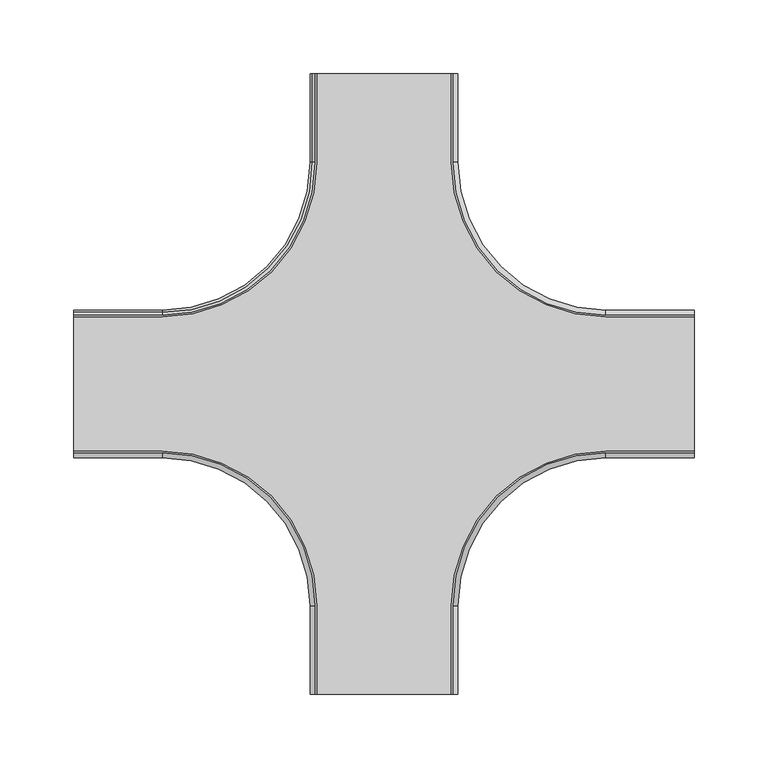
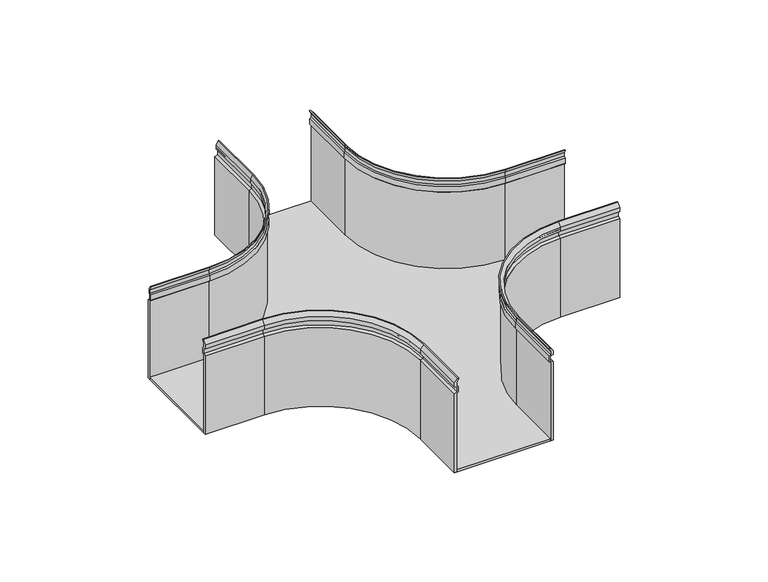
"""IFC4 building model written with IfcOpenShell, lengths in millimetres: cable carrier fitting geometry, CRERC_Horizontal Cross-over_Basortray : Basortray CRERC-GS."""

from ifc_helpers import new_model, si_unit, point, frame, frame_2d, origin, place, context, project, spatial, polyline, circle_curve, trimmed, segment, composite_curve, outline, extrude, source, transform, mapped, element, save
from ifc_brep_helpers import plane_surface, cylinder_surface, revolved_surface, advanced_brep


def cable_carrier_fitting_676bfd4c(model_context):
    return source(origin(), model_context, "Body", "SolidModel", [
        advanced_brep(
        [(-210.0, -47.46, 34.0054951), (-210.0, -47.46, -50.0), (-210.0, -50.0, -50.0), (-210.0, -50.0, 34.336866), (-210.0, -47.157385, 35.439481), (-210.0, -47.157385, 40.6905707), (-210.0, -50.0, 41.7931858), (-210.0, -50.0, 46.1360249), (-210.0, -46.4581988, 50.0), (-210.0, -45.5754965, 50.0), (-210.0, -47.46, 45.9586692), (-210.0, -47.46, 42.1245566), (-210.0, -46.157385, 41.0219416), (-210.0, -46.157385, 35.1081101), (-150.0, -46.157385, 35.1081101), (-150.0, -47.46, 34.0054951), (-150.0, -46.157385, 41.0219416), (-150.0, -47.46, 42.1245566), (-150.0, -47.46, 45.9586692), (-150.0, -45.5754965, 50.0), (-150.0, -46.4581988, 50.0), (-46.4581988, -150.0, 50.0), (-46.4581988, -210.0, 50.0), (-45.5754965, -210.0, 50.0), (-45.5754965, -150.0, 50.0), (-150.0, -50.0, 46.1360249), (-150.0, -50.0, 41.7931858), (-150.0, -47.157385, 40.6905707), (-150.0, -47.157385, 35.439481), (-150.0, -50.0, 34.336866), (-150.0, -50.0, -50.0), (-150.0, -47.46, -50.0), (-47.46, -150.0, -50.0), (-47.46, -210.0, -50.0), (-50.0, -210.0, -50.0), (-50.0, -150.0, -50.0), (-47.46, -150.0, 34.0054951), (-46.157385, -150.0, 35.1081101), (-46.157385, -150.0, 41.0219416), (-47.46, -150.0, 42.1245566), (-47.46, -150.0, 45.9586692), (-50.0, -150.0, 46.1360249), (-50.0, -150.0, 41.7931858), (-47.157385, -150.0, 40.6905707), (-47.157385, -150.0, 35.439481), (-50.0, -150.0, 34.336866), (-47.46, -210.0, 34.0054951), (-46.157385, -210.0, 35.1081101), (-46.157385, -210.0, 41.0219416), (-47.46, -210.0, 42.1245566), (-47.46, -210.0, 45.9586692), (-50.0, -210.0, 46.1360249), (-50.0, -210.0, 41.7931858), (-47.157385, -210.0, 40.6905707), (-47.157385, -210.0, 35.439481), (-50.0, -210.0, 34.336866)],
        [
            (0, 1),
            (1, 2),
            (2, 3),
            (3, 4),
            (4, 5),
            (5, 6),
            (6, 7),
            (7, 8),
            (8, 9),
            (9, 10),
            (10, 11),
            (11, 12),
            (12, 13),
            (13, 0),
            (13, 14),
            (14, 15),
            (15, 0),
            (12, 16),
            (16, 14),
            (11, 17),
            (17, 16),
            (10, 18),
            (18, 17),
            (9, 19),
            (19, 18),
            (8, 20),
            (20, 21, circle_curve(frame((-150.0, -150.0, 50.0), z_axis=(0.0, 0.0, -1.0), x_axis=(0.0, 1.0, 0.0)), 103.5418012)),
            (21, 22),
            (22, 23),
            (23, 24),
            (24, 19, circle_curve(frame((-150.0, -150.0, 50.0), z_axis=(0.0, 0.0, 1.0), x_axis=(0.0, 1.0, 0.0)), 104.4245035)),
            (7, 25),
            (25, 20),
            (6, 26),
            (26, 25),
            (5, 27),
            (27, 26),
            (4, 28),
            (28, 27),
            (3, 29),
            (29, 28),
            (2, 30),
            (30, 29),
            (1, 31),
            (31, 32, circle_curve(frame((-150.0, -150.0, -50.0), z_axis=(0.0, 0.0, -1.0), x_axis=(0.0, 1.0, 0.0)), 102.54)),
            (32, 33),
            (33, 34),
            (34, 35),
            (35, 30, circle_curve(frame((-150.0, -150.0, -50.0), z_axis=(0.0, 0.0, 1.0), x_axis=(0.0, 1.0, 0.0)), 100.0)),
            (15, 31),
            (36, 15, circle_curve(frame((-150.0, -150.0, 34.0054951), z_axis=(0.0, 0.0, 1.0), x_axis=(0.0, 1.0, 0.0)), 102.54)),
            (14, 37, circle_curve(frame((-150.0, -150.0, 35.1081101), z_axis=(0.0, 0.0, -1.0), x_axis=(0.0, 1.0, 0.0)), 103.842615)),
            (37, 36),
            (16, 38, circle_curve(frame((-150.0, -150.0, 41.0219416), z_axis=(0.0, 0.0, -1.0), x_axis=(0.0, 1.0, 0.0)), 103.842615)),
            (38, 37),
            (17, 39, circle_curve(frame((-150.0, -150.0, 42.1245566), z_axis=(0.0, 0.0, -1.0), x_axis=(0.0, 1.0, 0.0)), 102.54)),
            (39, 38),
            (18, 40, circle_curve(frame((-150.0, -150.0, 45.9586692), z_axis=(0.0, 0.0, -1.0), x_axis=(0.0, 1.0, 0.0)), 102.54)),
            (40, 39),
            (24, 40),
            (25, 41, circle_curve(frame((-150.0, -150.0, 46.1360249), z_axis=(0.0, 0.0, -1.0), x_axis=(0.0, 1.0, 0.0)), 100.0)),
            (41, 21),
            (26, 42, circle_curve(frame((-150.0, -150.0, 41.7931858), z_axis=(0.0, 0.0, -1.0), x_axis=(0.0, 1.0, 0.0)), 100.0)),
            (42, 41),
            (27, 43, circle_curve(frame((-150.0, -150.0, 40.6905707), z_axis=(0.0, 0.0, -1.0), x_axis=(0.0, 1.0, 0.0)), 102.842615)),
            (43, 42),
            (28, 44, circle_curve(frame((-150.0, -150.0, 35.439481), z_axis=(0.0, 0.0, -1.0), x_axis=(0.0, 1.0, 0.0)), 102.842615)),
            (44, 43),
            (29, 45, circle_curve(frame((-150.0, -150.0, 34.336866), z_axis=(0.0, 0.0, -1.0), x_axis=(0.0, 1.0, 0.0)), 100.0)),
            (45, 44),
            (35, 45),
            (36, 32),
            (46, 47),
            (47, 48),
            (48, 49),
            (49, 50),
            (50, 23),
            (22, 51),
            (51, 52),
            (52, 53),
            (53, 54),
            (54, 55),
            (55, 34),
            (33, 46),
            (37, 47),
            (46, 36),
            (38, 48),
            (39, 49),
            (40, 50),
            (41, 51),
            (42, 52),
            (43, 53),
            (44, 54),
            (45, 55),
        ],
        [
            plane_surface(frame((-210.0, -47.46, 0.0), z_axis=(-1.0, 0.0, 0.0), x_axis=(0.0, 0.0, 1.0))),
            plane_surface(frame((-210.0, -46.157385, 35.1081101), z_axis=(0.0, 0.6460796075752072, -0.7632700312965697), x_axis=(1.0, 0.0, 0.0))),
            plane_surface(frame((-210.0, -46.157385, 41.0219416), z_axis=(0.0, 1.0, 0.0), x_axis=(1.0, 0.0, 0.0))),
            plane_surface(frame((-210.0, -47.46, 42.1245566), z_axis=(0.0, 0.6460796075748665, 0.7632700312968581), x_axis=(1.0, 0.0, 0.0))),
            plane_surface(frame((-210.0, -47.46, 45.9586692), z_axis=(0.0, 1.0, 0.0), x_axis=(1.0, 0.0, 0.0))),
            plane_surface(frame((-210.0, -45.5754965, 50.0), z_axis=(0.0, 0.9063077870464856, -0.4226182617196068), x_axis=(1.0, 0.0, 0.0))),
            plane_surface(frame((-210.0, -46.4581988, 50.0), z_axis=(0.0, 0.0, 1.0), x_axis=(1.0, 0.0, 0.0))),
            plane_surface(frame((-210.0, -50.0, 46.1360249), z_axis=(0.0, -0.7371708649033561, 0.6757063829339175), x_axis=(1.0, 0.0, 0.0))),
            plane_surface(frame((-210.0, -50.0, 41.7931858), z_axis=(0.0, -1.0, 0.0), x_axis=(1.0, 0.0, 0.0))),
            plane_surface(frame((-210.0, -47.157385, 40.6905707), z_axis=(0.0, -0.3616352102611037, -0.9323196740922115), x_axis=(1.0, 0.0, 0.0))),
            plane_surface(frame((-210.0, -47.157385, 35.439481), z_axis=(0.0, -1.0, 0.0), x_axis=(1.0, 0.0, 0.0))),
            plane_surface(frame((-210.0, -50.0, 34.336866), z_axis=(0.0, -0.36163521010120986, 0.9323196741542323), x_axis=(1.0, 0.0, 0.0))),
            plane_surface(frame((-210.0, -50.0, -50.0), z_axis=(0.0, -1.0, 0.0), x_axis=(1.0, 0.0, 0.0))),
            plane_surface(frame((-210.0, -47.46, -50.0), z_axis=(0.0, 0.0, -1.0), x_axis=(1.0, 0.0, 0.0))),
            plane_surface(frame((-210.0, -47.46, 34.0054951), z_axis=(0.0, 1.0, 0.0), x_axis=(1.0, 0.0, 0.0))),
            revolved_surface(polyline([(-150.0, -46.157385, 35.1081101), (-150.0, -47.46, 34.0054951)]), (-150.0, -150.0, 0.0), (0.0, 0.0, -1.0)),
            cylinder_surface(frame((-150.0, -150.0, 0.0), z_axis=(0.0, 0.0, -1.0), x_axis=(0.0, 1.0, 0.0)), 103.842615),
            revolved_surface(polyline([(-150.0, -47.46, 42.1245566), (-150.0, -46.157385, 41.0219416)]), (-150.0, -150.0, 0.0), (0.0, 0.0, -1.0)),
            cylinder_surface(frame((-150.0, -150.0, 0.0), z_axis=(0.0, 0.0, -1.0), x_axis=(0.0, 1.0, 0.0)), 102.54),
            revolved_surface(polyline([(-150.0, -45.5754965, 50.0), (-150.0, -47.46, 45.9586692)]), (-150.0, -150.0, 0.0), (0.0, 0.0, -1.0)),
            revolved_surface(polyline([(-150.0, -50.0, 46.1360249), (-150.0, -46.4581988, 50.0)]), (-150.0, -150.0, 0.0), (0.0, 0.0, -1.0)),
            revolved_surface(polyline([(-150.0, -50.0, 41.7931858), (-150.0, -50.0, 46.1360249)]), (-150.0, -150.0, 0.0), (0.0, 0.0, -1.0)),
            revolved_surface(polyline([(-150.0, -47.157385, 40.6905707), (-150.0, -50.0, 41.7931858)]), (-150.0, -150.0, 0.0), (0.0, 0.0, -1.0)),
            revolved_surface(polyline([(-150.0, -47.157385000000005, 35.439481), (-150.0, -47.157385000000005, 40.6905707)]), (-150.0, -150.0, 0.0), (0.0, 0.0, -1.0)),
            revolved_surface(polyline([(-150.0, -50.0, 34.336866), (-150.0, -47.157385, 35.439481)]), (-150.0, -150.0, 0.0), (0.0, 0.0, -1.0)),
            revolved_surface(polyline([(-150.0, -50.0, -50.0), (-150.0, -50.0, 34.336866)]), (-150.0, -150.0, 0.0), (0.0, 0.0, -1.0)),
            plane_surface(frame((-47.46, -210.0, 0.0), z_axis=(0.0, -1.0, 0.0), x_axis=(0.0, 0.0, 1.0))),
            plane_surface(frame((-46.157385, -150.0, 35.1081101), z_axis=(0.6460796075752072, 0.0, -0.7632700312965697), x_axis=(0.0, -1.0, 0.0))),
            plane_surface(frame((-46.157385, -150.0, 41.0219416), z_axis=(1.0, 0.0, 0.0), x_axis=(0.0, -1.0, 0.0))),
            plane_surface(frame((-47.46, -150.0, 42.1245566), z_axis=(0.6460796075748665, 0.0, 0.7632700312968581), x_axis=(0.0, -1.0, 0.0))),
            plane_surface(frame((-47.46, -150.0, 45.9586692), z_axis=(1.0, 0.0, 0.0), x_axis=(0.0, -1.0, 0.0))),
            plane_surface(frame((-45.5754965, -150.0, 50.0), z_axis=(0.9063077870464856, 0.0, -0.4226182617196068), x_axis=(0.0, -1.0, 0.0))),
            plane_surface(frame((-50.0, -150.0, 46.1360249), z_axis=(-0.7371708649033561, 0.0, 0.6757063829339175), x_axis=(0.0, -1.0, 0.0))),
            plane_surface(frame((-50.0, -150.0, 41.7931858), z_axis=(-1.0, 0.0, 0.0), x_axis=(0.0, -1.0, 0.0))),
            plane_surface(frame((-47.157385, -150.0, 40.6905707), z_axis=(-0.3616352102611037, 0.0, -0.9323196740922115), x_axis=(0.0, -1.0, 0.0))),
            plane_surface(frame((-47.157385, -150.0, 35.439481), z_axis=(-1.0, 0.0, 0.0), x_axis=(0.0, -1.0, 0.0))),
            plane_surface(frame((-50.0, -150.0, 34.336866), z_axis=(-0.36163521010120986, 0.0, 0.9323196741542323), x_axis=(0.0, -1.0, 0.0))),
            plane_surface(frame((-50.0, -150.0, -50.0), z_axis=(-1.0, 0.0, 0.0), x_axis=(0.0, -1.0, 0.0))),
            plane_surface(frame((-47.46, -150.0, 34.0054951), z_axis=(1.0, 0.0, 0.0), x_axis=(0.0, -1.0, 0.0))),
        ],
        [
            (0, [[1, 2, 3, 4, 5, 6, 7, 8, 9, 10, 11, 12, 13, 14]]),
            (1, [[-14, 15, 16, 17]]),
            (2, [[-13, 18, 19, -15]]),
            (3, [[-12, 20, 21, -18]]),
            (4, [[-11, 22, 23, -20]]),
            (5, [[-10, 24, 25, -22]]),
            (6, [[-9, 26, 27, 28, 29, 30, 31, -24]]),
            (7, [[-8, 32, 33, -26]]),
            (8, [[-7, 34, 35, -32]]),
            (9, [[-6, 36, 37, -34]]),
            (10, [[-5, 38, 39, -36]]),
            (11, [[-4, 40, 41, -38]]),
            (12, [[-3, 42, 43, -40]]),
            (13, [[-2, 44, 45, 46, 47, 48, 49, -42]]),
            (14, [[-1, -17, 50, -44]]),
            (15, [[51, -16, 52, 53]]),
            (16, [[-52, -19, 54, 55]]),
            (17, [[-54, -21, 56, 57]]),
            (18, [[-56, -23, 58, 59]]),
            (19, [[-58, -25, -31, 60]]),
            (20, [[-27, -33, 61, 62]]),
            (21, [[-61, -35, 63, 64]]),
            (22, [[-63, -37, 65, 66]]),
            (23, [[-65, -39, 67, 68]]),
            (24, [[-67, -41, 69, 70]]),
            (25, [[-69, -43, -49, 71]]),
            (18, [[-45, -50, -51, 72]]),
            (26, [[73, 74, 75, 76, 77, -29, 78, 79, 80, 81, 82, 83, -47, 84]]),
            (27, [[-53, 85, -73, 86]]),
            (28, [[-55, 87, -74, -85]]),
            (29, [[-57, 88, -75, -87]]),
            (30, [[-59, 89, -76, -88]]),
            (31, [[-60, -30, -77, -89]]),
            (32, [[-62, 90, -78, -28]]),
            (33, [[-64, 91, -79, -90]]),
            (34, [[-66, 92, -80, -91]]),
            (35, [[-68, 93, -81, -92]]),
            (36, [[-70, 94, -82, -93]]),
            (37, [[-71, -48, -83, -94]]),
            (38, [[-72, -86, -84, -46]]),
        ],
    ),
        advanced_brep(
        [(210.0, -47.46, 34.0054951), (210.0, -46.157385, 35.1081101), (210.0, -46.157385, 41.0219416), (210.0, -47.46, 42.1245566), (210.0, -47.46, 45.9586692), (210.0, -45.5754965, 50.0), (210.0, -46.4581988, 50.0), (210.0, -50.0, 46.1360249), (210.0, -50.0, 41.7931858), (210.0, -47.157385, 40.6905707), (210.0, -47.157385, 35.439481), (210.0, -50.0, 34.336866), (210.0, -50.0, -50.0), (210.0, -47.46, -50.0), (150.0, -47.46, 34.0054951), (150.0, -46.157385, 35.1081101), (150.0, -46.157385, 41.0219416), (150.0, -47.46, 42.1245566), (150.0, -47.46, 45.9586692), (150.0, -45.5754965, 50.0), (45.5754965, -150.0, 50.0), (45.5754965, -210.0, 50.0), (46.4581988, -210.0, 50.0), (46.4581988, -150.0, 50.0), (150.0, -46.4581988, 50.0), (150.0, -50.0, 46.1360249), (150.0, -50.0, 41.7931858), (150.0, -47.157385, 40.6905707), (150.0, -47.157385, 35.439481), (150.0, -50.0, 34.336866), (150.0, -50.0, -50.0), (50.0, -150.0, -50.0), (50.0, -210.0, -50.0), (47.46, -210.0, -50.0), (47.46, -150.0, -50.0), (150.0, -47.46, -50.0), (46.157385, -150.0, 35.1081101), (47.46, -150.0, 34.0054951), (46.157385, -150.0, 41.0219416), (47.46, -150.0, 42.1245566), (47.46, -150.0, 45.9586692), (50.0, -150.0, 46.1360249), (50.0, -150.0, 41.7931858), (47.157385, -150.0, 40.6905707), (47.157385, -150.0, 35.439481), (50.0, -150.0, 34.336866), (47.46, -210.0, 34.0054951), (50.0, -210.0, 34.336866), (47.157385, -210.0, 35.439481), (47.157385, -210.0, 40.6905707), (50.0, -210.0, 41.7931858), (50.0, -210.0, 46.1360249), (47.46, -210.0, 45.9586692), (47.46, -210.0, 42.1245566), (46.157385, -210.0, 41.0219416), (46.157385, -210.0, 35.1081101)],
        [
            (0, 1),
            (1, 2),
            (2, 3),
            (3, 4),
            (4, 5),
            (5, 6),
            (6, 7),
            (7, 8),
            (8, 9),
            (9, 10),
            (10, 11),
            (11, 12),
            (12, 13),
            (13, 0),
            (0, 14),
            (14, 15),
            (15, 1),
            (15, 16),
            (16, 2),
            (16, 17),
            (17, 3),
            (17, 18),
            (18, 4),
            (18, 19),
            (19, 5),
            (19, 20, circle_curve(frame((150.0, -150.0, 50.0), z_axis=(0.0, 0.0, 1.0), x_axis=(0.0, 1.0, 0.0)), 104.4245035)),
            (20, 21),
            (21, 22),
            (22, 23),
            (23, 24, circle_curve(frame((150.0, -150.0, 50.0), z_axis=(0.0, 0.0, -1.0), x_axis=(0.0, 1.0, 0.0)), 103.5418012)),
            (24, 6),
            (24, 25),
            (25, 7),
            (25, 26),
            (26, 8),
            (26, 27),
            (27, 9),
            (27, 28),
            (28, 10),
            (28, 29),
            (29, 11),
            (29, 30),
            (30, 12),
            (30, 31, circle_curve(frame((150.0, -150.0, -50.0), z_axis=(0.0, 0.0, 1.0), x_axis=(0.0, 1.0, 0.0)), 100.0)),
            (31, 32),
            (32, 33),
            (33, 34),
            (34, 35, circle_curve(frame((150.0, -150.0, -50.0), z_axis=(0.0, 0.0, -1.0), x_axis=(0.0, 1.0, 0.0)), 102.54)),
            (35, 13),
            (35, 14),
            (36, 15, circle_curve(frame((150.0, -150.0, 35.1081101), z_axis=(0.0, 0.0, -1.0), x_axis=(0.0, 1.0, 0.0)), 103.842615)),
            (14, 37, circle_curve(frame((150.0, -150.0, 34.0054951), z_axis=(0.0, 0.0, 1.0), x_axis=(0.0, 1.0, 0.0)), 102.54)),
            (37, 36),
            (38, 16, circle_curve(frame((150.0, -150.0, 41.0219416), z_axis=(0.0, 0.0, -1.0), x_axis=(0.0, 1.0, 0.0)), 103.842615)),
            (36, 38),
            (39, 17, circle_curve(frame((150.0, -150.0, 42.1245566), z_axis=(0.0, 0.0, -1.0), x_axis=(0.0, 1.0, 0.0)), 102.54)),
            (38, 39),
            (40, 18, circle_curve(frame((150.0, -150.0, 45.9586692), z_axis=(0.0, 0.0, -1.0), x_axis=(0.0, 1.0, 0.0)), 102.54)),
            (39, 40),
            (40, 20),
            (41, 25, circle_curve(frame((150.0, -150.0, 46.1360249), z_axis=(0.0, 0.0, -1.0), x_axis=(0.0, 1.0, 0.0)), 100.0)),
            (23, 41),
            (42, 26, circle_curve(frame((150.0, -150.0, 41.7931858), z_axis=(0.0, 0.0, -1.0), x_axis=(0.0, 1.0, 0.0)), 100.0)),
            (41, 42),
            (43, 27, circle_curve(frame((150.0, -150.0, 40.6905707), z_axis=(0.0, 0.0, -1.0), x_axis=(0.0, 1.0, 0.0)), 102.842615)),
            (42, 43),
            (44, 28, circle_curve(frame((150.0, -150.0, 35.439481), z_axis=(0.0, 0.0, -1.0), x_axis=(0.0, 1.0, 0.0)), 102.842615)),
            (43, 44),
            (45, 29, circle_curve(frame((150.0, -150.0, 34.336866), z_axis=(0.0, 0.0, -1.0), x_axis=(0.0, 1.0, 0.0)), 100.0)),
            (44, 45),
            (45, 31),
            (34, 37),
            (46, 33),
            (32, 47),
            (47, 48),
            (48, 49),
            (49, 50),
            (50, 51),
            (51, 22),
            (21, 52),
            (52, 53),
            (53, 54),
            (54, 55),
            (55, 46),
            (37, 46),
            (55, 36),
            (54, 38),
            (53, 39),
            (52, 40),
            (51, 41),
            (50, 42),
            (49, 43),
            (48, 44),
            (47, 45),
        ],
        [
            plane_surface(frame((210.0, -47.46, 0.0), z_axis=(1.0, 0.0, 0.0), x_axis=(0.0, 0.0, 1.0))),
            plane_surface(frame((210.0, -47.46, 34.0054951), z_axis=(0.0, 0.6460796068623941, -0.7632700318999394), x_axis=(-1.0, 0.0, 0.0))),
            plane_surface(frame((210.0, -46.157385, 35.1081101), z_axis=(0.0, 1.0, 0.0), x_axis=(-1.0, 0.0, 0.0))),
            plane_surface(frame((210.0, -46.157385, 41.0219416), z_axis=(0.0, 0.6460796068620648, 0.763270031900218), x_axis=(-1.0, 0.0, 0.0))),
            plane_surface(frame((210.0, -47.46, 42.1245566), z_axis=(0.0, 1.0, 0.0), x_axis=(-1.0, 0.0, 0.0))),
            plane_surface(frame((210.0, -47.46, 45.9586692), z_axis=(0.0, 0.9063077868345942, -0.4226182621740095), x_axis=(-1.0, 0.0, 0.0))),
            plane_surface(frame((210.0, -45.5754965, 50.0), z_axis=(0.0, 0.0, 1.0), x_axis=(-1.0, 0.0, 0.0))),
            plane_surface(frame((210.0, -46.4581988, 50.0), z_axis=(0.0, -0.737170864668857, 0.6757063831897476), x_axis=(-1.0, 0.0, 0.0))),
            plane_surface(frame((210.0, -50.0, 46.1360249), z_axis=(0.0, -1.0, 0.0), x_axis=(-1.0, 0.0, 0.0))),
            plane_surface(frame((210.0, -50.0, 41.7931858), z_axis=(0.0, -0.3616352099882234, -0.9323196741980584), x_axis=(-1.0, 0.0, 0.0))),
            plane_surface(frame((210.0, -47.157385, 40.6905707), z_axis=(0.0, -1.0, 0.0), x_axis=(-1.0, 0.0, 0.0))),
            plane_surface(frame((210.0, -47.157385, 35.439481), z_axis=(0.0, -0.3616352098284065, 0.9323196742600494), x_axis=(-1.0, 0.0, 0.0))),
            plane_surface(frame((210.0, -50.0, 34.336866), z_axis=(0.0, -1.0, 0.0), x_axis=(-1.0, 0.0, 0.0))),
            plane_surface(frame((210.0, -50.0, -50.0), z_axis=(0.0, 0.0, -1.0), x_axis=(-1.0, 0.0, 0.0))),
            plane_surface(frame((210.0, -47.46, -50.0), z_axis=(0.0, 1.0, 0.0), x_axis=(-1.0, 0.0, 0.0))),
            revolved_surface(polyline([(150.0, -47.46, 34.0054951), (150.0, -46.157385, 35.1081101)]), (150.0, -150.0, 0.0), (0.0, 0.0, 1.0)),
            cylinder_surface(frame((150.0, -150.0, 0.0), z_axis=(0.0, 0.0, 1.0), x_axis=(0.0, 1.0, 0.0)), 103.842615),
            revolved_surface(polyline([(150.0, -46.157385, 41.0219416), (150.0, -47.46, 42.1245566)]), (150.0, -150.0, 0.0), (0.0, 0.0, 1.0)),
            cylinder_surface(frame((150.0, -150.0, 0.0), z_axis=(0.0, 0.0, 1.0), x_axis=(0.0, 1.0, 0.0)), 102.54),
            revolved_surface(polyline([(150.0, -47.46, 45.9586692), (150.0, -45.5754965, 50.0)]), (150.0, -150.0, 0.0), (0.0, 0.0, 1.0)),
            revolved_surface(polyline([(150.0, -46.4581988, 50.0), (150.0, -50.0, 46.1360249)]), (150.0, -150.0, 0.0), (0.0, 0.0, 1.0)),
            revolved_surface(polyline([(150.0, -50.0, 46.1360249), (150.0, -50.0, 41.7931858)]), (150.0, -150.0, 0.0), (0.0, 0.0, 1.0)),
            revolved_surface(polyline([(150.0, -50.0, 41.7931858), (150.0, -47.157385, 40.6905707)]), (150.0, -150.0, 0.0), (0.0, 0.0, 1.0)),
            revolved_surface(polyline([(150.0, -47.157385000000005, 40.6905707), (150.0, -47.157385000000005, 35.439481)]), (150.0, -150.0, 0.0), (0.0, 0.0, 1.0)),
            revolved_surface(polyline([(150.0, -47.157385, 35.439481), (150.0, -50.0, 34.336866)]), (150.0, -150.0, 0.0), (0.0, 0.0, 1.0)),
            revolved_surface(polyline([(150.0, -50.0, 34.336866), (150.0, -50.0, -50.0)]), (150.0, -150.0, 0.0), (0.0, 0.0, 1.0)),
            plane_surface(frame((47.46, -210.0, 0.0), z_axis=(0.0, -1.0, 0.0), x_axis=(0.0, 0.0, 1.0))),
            plane_surface(frame((47.46, -150.0, 34.0054951), z_axis=(-0.6460796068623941, 0.0, -0.7632700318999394), x_axis=(0.0, -1.0, 0.0))),
            plane_surface(frame((46.157385, -150.0, 35.1081101), z_axis=(-1.0, 0.0, 0.0), x_axis=(0.0, -1.0, 0.0))),
            plane_surface(frame((46.157385, -150.0, 41.0219416), z_axis=(-0.6460796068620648, 0.0, 0.763270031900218), x_axis=(0.0, -1.0, 0.0))),
            plane_surface(frame((47.46, -150.0, 42.1245566), z_axis=(-1.0, 0.0, 0.0), x_axis=(0.0, -1.0, 0.0))),
            plane_surface(frame((47.46, -150.0, 45.9586692), z_axis=(-0.9063077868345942, 0.0, -0.4226182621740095), x_axis=(0.0, -1.0, 0.0))),
            plane_surface(frame((46.4581988, -150.0, 50.0), z_axis=(0.737170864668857, 0.0, 0.6757063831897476), x_axis=(0.0, -1.0, 0.0))),
            plane_surface(frame((50.0, -150.0, 46.1360249), z_axis=(1.0, 0.0, 0.0), x_axis=(0.0, -1.0, 0.0))),
            plane_surface(frame((50.0, -150.0, 41.7931858), z_axis=(0.3616352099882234, 0.0, -0.9323196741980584), x_axis=(0.0, -1.0, 0.0))),
            plane_surface(frame((47.157385, -150.0, 40.6905707), z_axis=(1.0, 0.0, 0.0), x_axis=(0.0, -1.0, 0.0))),
            plane_surface(frame((47.157385, -150.0, 35.439481), z_axis=(0.3616352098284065, 0.0, 0.9323196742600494), x_axis=(0.0, -1.0, 0.0))),
            plane_surface(frame((50.0, -150.0, 34.336866), z_axis=(1.0, 0.0, 0.0), x_axis=(0.0, -1.0, 0.0))),
            plane_surface(frame((47.46, -150.0, -50.0), z_axis=(-1.0, 0.0, 0.0), x_axis=(0.0, -1.0, 0.0))),
        ],
        [
            (0, [[1, 2, 3, 4, 5, 6, 7, 8, 9, 10, 11, 12, 13, 14]]),
            (1, [[-1, 15, 16, 17]]),
            (2, [[-2, -17, 18, 19]]),
            (3, [[-3, -19, 20, 21]]),
            (4, [[-4, -21, 22, 23]]),
            (5, [[-5, -23, 24, 25]]),
            (6, [[-6, -25, 26, 27, 28, 29, 30, 31]]),
            (7, [[-7, -31, 32, 33]]),
            (8, [[-8, -33, 34, 35]]),
            (9, [[-9, -35, 36, 37]]),
            (10, [[-10, -37, 38, 39]]),
            (11, [[-11, -39, 40, 41]]),
            (12, [[-12, -41, 42, 43]]),
            (13, [[-13, -43, 44, 45, 46, 47, 48, 49]]),
            (14, [[-14, -49, 50, -15]]),
            (15, [[51, -16, 52, 53]]),
            (16, [[54, -18, -51, 55]]),
            (17, [[56, -20, -54, 57]]),
            (18, [[58, -22, -56, 59]]),
            (19, [[-26, -24, -58, 60]]),
            (20, [[61, -32, -30, 62]]),
            (21, [[63, -34, -61, 64]]),
            (22, [[65, -36, -63, 66]]),
            (23, [[67, -38, -65, 68]]),
            (24, [[69, -40, -67, 70]]),
            (25, [[-44, -42, -69, 71]]),
            (18, [[-52, -50, -48, 72]]),
            (26, [[73, -46, 74, 75, 76, 77, 78, 79, -28, 80, 81, 82, 83, 84]]),
            (27, [[-53, 85, -84, 86]]),
            (28, [[-55, -86, -83, 87]]),
            (29, [[-57, -87, -82, 88]]),
            (30, [[-59, -88, -81, 89]]),
            (31, [[-60, -89, -80, -27]]),
            (32, [[-62, -29, -79, 90]]),
            (33, [[-64, -90, -78, 91]]),
            (34, [[-66, -91, -77, 92]]),
            (35, [[-68, -92, -76, 93]]),
            (36, [[-70, -93, -75, 94]]),
            (37, [[-71, -94, -74, -45]]),
            (38, [[-72, -47, -73, -85]]),
        ],
    ),
        advanced_brep(
        [(210.0, 47.46, 34.0054951), (210.0, 47.46, -50.0), (210.0, 50.0, -50.0), (210.0, 50.0, 34.336866), (210.0, 47.157385, 35.439481), (210.0, 47.157385, 40.6905707), (210.0, 50.0, 41.7931858), (210.0, 50.0, 46.1360249), (210.0, 46.4581988, 50.0), (210.0, 45.5754965, 50.0), (210.0, 47.46, 45.9586692), (210.0, 47.46, 42.1245566), (210.0, 46.157385, 41.0219416), (210.0, 46.157385, 35.1081101), (150.0, 46.157385, 35.1081101), (150.0, 47.46, 34.0054951), (150.0, 46.157385, 41.0219416), (150.0, 47.46, 42.1245566), (150.0, 47.46, 45.9586692), (150.0, 45.5754965, 50.0), (150.0, 46.4581988, 50.0), (46.4581988, 150.0, 50.0), (46.4581988, 210.0, 50.0), (45.5754965, 210.0, 50.0), (45.5754965, 150.0, 50.0), (150.0, 50.0, 46.1360249), (150.0, 50.0, 41.7931858), (150.0, 47.157385, 40.6905707), (150.0, 47.157385, 35.439481), (150.0, 50.0, 34.336866), (150.0, 50.0, -50.0), (150.0, 47.46, -50.0), (47.46, 150.0, -50.0), (47.46, 210.0, -50.0), (50.0, 210.0, -50.0), (50.0, 150.0, -50.0), (47.46, 150.0, 34.0054951), (46.157385, 150.0, 35.1081101), (46.157385, 150.0, 41.0219416), (47.46, 150.0, 42.1245566), (47.46, 150.0, 45.9586692), (50.0, 150.0, 46.1360249), (50.0, 150.0, 41.7931858), (47.157385, 150.0, 40.6905707), (47.157385, 150.0, 35.439481), (50.0, 150.0, 34.336866), (47.46, 210.0, 34.0054951), (46.157385, 210.0, 35.1081101), (46.157385, 210.0, 41.0219416), (47.46, 210.0, 42.1245566), (47.46, 210.0, 45.9586692), (50.0, 210.0, 46.1360249), (50.0, 210.0, 41.7931858), (47.157385, 210.0, 40.6905707), (47.157385, 210.0, 35.439481), (50.0, 210.0, 34.336866)],
        [
            (0, 1),
            (1, 2),
            (2, 3),
            (3, 4),
            (4, 5),
            (5, 6),
            (6, 7),
            (7, 8),
            (8, 9),
            (9, 10),
            (10, 11),
            (11, 12),
            (12, 13),
            (13, 0),
            (13, 14),
            (14, 15),
            (15, 0),
            (12, 16),
            (16, 14),
            (11, 17),
            (17, 16),
            (10, 18),
            (18, 17),
            (9, 19),
            (19, 18),
            (8, 20),
            (20, 21, circle_curve(frame((150.0, 150.0, 50.0), z_axis=(0.0, 0.0, -1.0), x_axis=(0.0, -1.0, 0.0)), 103.5418012)),
            (21, 22),
            (22, 23),
            (23, 24),
            (24, 19, circle_curve(frame((150.0, 150.0, 50.0), z_axis=(0.0, 0.0, 1.0), x_axis=(0.0, -1.0, 0.0)), 104.4245035)),
            (7, 25),
            (25, 20),
            (6, 26),
            (26, 25),
            (5, 27),
            (27, 26),
            (4, 28),
            (28, 27),
            (3, 29),
            (29, 28),
            (2, 30),
            (30, 29),
            (1, 31),
            (31, 32, circle_curve(frame((150.0, 150.0, -50.0), z_axis=(0.0, 0.0, -1.0), x_axis=(0.0, -1.0, 0.0)), 102.54)),
            (32, 33),
            (33, 34),
            (34, 35),
            (35, 30, circle_curve(frame((150.0, 150.0, -50.0), z_axis=(0.0, 0.0, 1.0), x_axis=(0.0, -1.0, 0.0)), 100.0)),
            (15, 31),
            (36, 15, circle_curve(frame((150.0, 150.0, 34.0054951), z_axis=(0.0, 0.0, 1.0), x_axis=(0.0, -1.0, 0.0)), 102.54)),
            (14, 37, circle_curve(frame((150.0, 150.0, 35.1081101), z_axis=(0.0, 0.0, -1.0), x_axis=(0.0, -1.0, 0.0)), 103.842615)),
            (37, 36),
            (16, 38, circle_curve(frame((150.0, 150.0, 41.0219416), z_axis=(0.0, 0.0, -1.0), x_axis=(0.0, -1.0, 0.0)), 103.842615)),
            (38, 37),
            (17, 39, circle_curve(frame((150.0, 150.0, 42.1245566), z_axis=(0.0, 0.0, -1.0), x_axis=(0.0, -1.0, 0.0)), 102.54)),
            (39, 38),
            (18, 40, circle_curve(frame((150.0, 150.0, 45.9586692), z_axis=(0.0, 0.0, -1.0), x_axis=(0.0, -1.0, 0.0)), 102.54)),
            (40, 39),
            (24, 40),
            (25, 41, circle_curve(frame((150.0, 150.0, 46.1360249), z_axis=(0.0, 0.0, -1.0), x_axis=(0.0, -1.0, 0.0)), 100.0)),
            (41, 21),
            (26, 42, circle_curve(frame((150.0, 150.0, 41.7931858), z_axis=(0.0, 0.0, -1.0), x_axis=(0.0, -1.0, 0.0)), 100.0)),
            (42, 41),
            (27, 43, circle_curve(frame((150.0, 150.0, 40.6905707), z_axis=(0.0, 0.0, -1.0), x_axis=(0.0, -1.0, 0.0)), 102.842615)),
            (43, 42),
            (28, 44, circle_curve(frame((150.0, 150.0, 35.439481), z_axis=(0.0, 0.0, -1.0), x_axis=(0.0, -1.0, 0.0)), 102.842615)),
            (44, 43),
            (29, 45, circle_curve(frame((150.0, 150.0, 34.336866), z_axis=(0.0, 0.0, -1.0), x_axis=(0.0, -1.0, 0.0)), 100.0)),
            (45, 44),
            (35, 45),
            (36, 32),
            (46, 47),
            (47, 48),
            (48, 49),
            (49, 50),
            (50, 23),
            (22, 51),
            (51, 52),
            (52, 53),
            (53, 54),
            (54, 55),
            (55, 34),
            (33, 46),
            (37, 47),
            (46, 36),
            (38, 48),
            (39, 49),
            (40, 50),
            (41, 51),
            (42, 52),
            (43, 53),
            (44, 54),
            (45, 55),
        ],
        [
            plane_surface(frame((210.0, 47.46, 0.0), z_axis=(1.0, 0.0, 0.0), x_axis=(0.0, 0.0, 1.0))),
            plane_surface(frame((210.0, 46.157385, 35.1081101), z_axis=(0.0, -0.6460796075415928, -0.763270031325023), x_axis=(-1.0, 0.0, 0.0))),
            plane_surface(frame((210.0, 46.157385, 41.0219416), z_axis=(0.0, -1.0, 0.0), x_axis=(-1.0, 0.0, 0.0))),
            plane_surface(frame((210.0, 47.46, 42.1245566), z_axis=(0.0, -0.6460796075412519, 0.7632700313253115), x_axis=(-1.0, 0.0, 0.0))),
            plane_surface(frame((210.0, 47.46, 45.9586692), z_axis=(0.0, -1.0, 0.0), x_axis=(-1.0, 0.0, 0.0))),
            plane_surface(frame((210.0, 45.5754965, 50.0), z_axis=(0.0, -0.9063077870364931, -0.42261826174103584), x_axis=(-1.0, 0.0, 0.0))),
            plane_surface(frame((210.0, 46.4581988, 50.0), z_axis=(0.0, 0.0, 1.0), x_axis=(-1.0, 0.0, 0.0))),
            plane_surface(frame((210.0, 50.0, 46.1360249), z_axis=(0.0, 0.7371708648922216, 0.6757063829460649), x_axis=(-1.0, 0.0, 0.0))),
            plane_surface(frame((210.0, 50.0, 41.7931858), z_axis=(0.0, 1.0, 0.0), x_axis=(-1.0, 0.0, 0.0))),
            plane_surface(frame((210.0, 47.157385, 40.6905707), z_axis=(0.0, 0.3616352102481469, -0.9323196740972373), x_axis=(-1.0, 0.0, 0.0))),
            plane_surface(frame((210.0, 47.157385, 35.439481), z_axis=(0.0, 1.0, 0.0), x_axis=(-1.0, 0.0, 0.0))),
            plane_surface(frame((210.0, 50.0, 34.336866), z_axis=(0.0, 0.36163521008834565, 0.9323196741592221), x_axis=(-1.0, 0.0, 0.0))),
            plane_surface(frame((210.0, 50.0, -50.0), z_axis=(0.0, 1.0, 0.0), x_axis=(-1.0, 0.0, 0.0))),
            plane_surface(frame((210.0, 47.46, -50.0), z_axis=(0.0, 0.0, -1.0), x_axis=(-1.0, 0.0, 0.0))),
            plane_surface(frame((210.0, 47.46, 34.0054951), z_axis=(0.0, -1.0, 0.0), x_axis=(-1.0, 0.0, 0.0))),
            revolved_surface(polyline([(150.0, 46.157385, 35.1081101), (150.0, 47.46, 34.0054951)]), (150.0, 150.0, 0.0), (0.0, 0.0, -1.0)),
            cylinder_surface(frame((150.0, 150.0, 0.0), z_axis=(0.0, 0.0, -1.0), x_axis=(0.0, -1.0, 0.0)), 103.842615),
            revolved_surface(polyline([(150.0, 47.46, 42.1245566), (150.0, 46.157385, 41.0219416)]), (150.0, 150.0, 0.0), (0.0, 0.0, -1.0)),
            cylinder_surface(frame((150.0, 150.0, 0.0), z_axis=(0.0, 0.0, -1.0), x_axis=(0.0, -1.0, 0.0)), 102.54),
            revolved_surface(polyline([(150.0, 45.5754965, 50.0), (150.0, 47.46, 45.9586692)]), (150.0, 150.0, 0.0), (0.0, 0.0, -1.0)),
            revolved_surface(polyline([(150.0, 50.0, 46.1360249), (150.0, 46.4581988, 50.0)]), (150.0, 150.0, 0.0), (0.0, 0.0, -1.0)),
            revolved_surface(polyline([(150.0, 50.0, 41.7931858), (150.0, 50.0, 46.1360249)]), (150.0, 150.0, 0.0), (0.0, 0.0, -1.0)),
            revolved_surface(polyline([(150.0, 47.157385, 40.6905707), (150.0, 50.0, 41.7931858)]), (150.0, 150.0, 0.0), (0.0, 0.0, -1.0)),
            revolved_surface(polyline([(150.0, 47.157385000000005, 35.439481), (150.0, 47.157385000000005, 40.6905707)]), (150.0, 150.0, 0.0), (0.0, 0.0, -1.0)),
            revolved_surface(polyline([(150.0, 50.0, 34.336866), (150.0, 47.157385, 35.439481)]), (150.0, 150.0, 0.0), (0.0, 0.0, -1.0)),
            revolved_surface(polyline([(150.0, 50.0, -50.0), (150.0, 50.0, 34.336866)]), (150.0, 150.0, 0.0), (0.0, 0.0, -1.0)),
            plane_surface(frame((47.46, 210.0, 0.0), z_axis=(0.0, 1.0, 0.0), x_axis=(0.0, 0.0, 1.0))),
            plane_surface(frame((46.157385, 150.0, 35.1081101), z_axis=(-0.6460796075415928, 0.0, -0.763270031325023), x_axis=(0.0, 1.0, 0.0))),
            plane_surface(frame((46.157385, 150.0, 41.0219416), z_axis=(-1.0, 0.0, 0.0), x_axis=(0.0, 1.0, 0.0))),
            plane_surface(frame((47.46, 150.0, 42.1245566), z_axis=(-0.6460796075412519, 0.0, 0.7632700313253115), x_axis=(0.0, 1.0, 0.0))),
            plane_surface(frame((47.46, 150.0, 45.9586692), z_axis=(-1.0, 0.0, 0.0), x_axis=(0.0, 1.0, 0.0))),
            plane_surface(frame((45.5754965, 150.0, 50.0), z_axis=(-0.9063077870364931, 0.0, -0.42261826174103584), x_axis=(0.0, 1.0, 0.0))),
            plane_surface(frame((50.0, 150.0, 46.1360249), z_axis=(0.7371708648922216, 0.0, 0.6757063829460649), x_axis=(0.0, 1.0, 0.0))),
            plane_surface(frame((50.0, 150.0, 41.7931858), z_axis=(1.0, 0.0, 0.0), x_axis=(0.0, 1.0, 0.0))),
            plane_surface(frame((47.157385, 150.0, 40.6905707), z_axis=(0.3616352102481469, 0.0, -0.9323196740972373), x_axis=(0.0, 1.0, 0.0))),
            plane_surface(frame((47.157385, 150.0, 35.439481), z_axis=(1.0, 0.0, 0.0), x_axis=(0.0, 1.0, 0.0))),
            plane_surface(frame((50.0, 150.0, 34.336866), z_axis=(0.36163521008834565, 0.0, 0.9323196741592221), x_axis=(0.0, 1.0, 0.0))),
            plane_surface(frame((50.0, 150.0, -50.0), z_axis=(1.0, 0.0, 0.0), x_axis=(0.0, 1.0, 0.0))),
            plane_surface(frame((47.46, 150.0, 34.0054951), z_axis=(-1.0, 0.0, 0.0), x_axis=(0.0, 1.0, 0.0))),
        ],
        [
            (0, [[1, 2, 3, 4, 5, 6, 7, 8, 9, 10, 11, 12, 13, 14]]),
            (1, [[-14, 15, 16, 17]]),
            (2, [[-13, 18, 19, -15]]),
            (3, [[-12, 20, 21, -18]]),
            (4, [[-11, 22, 23, -20]]),
            (5, [[-10, 24, 25, -22]]),
            (6, [[-9, 26, 27, 28, 29, 30, 31, -24]]),
            (7, [[-8, 32, 33, -26]]),
            (8, [[-7, 34, 35, -32]]),
            (9, [[-6, 36, 37, -34]]),
            (10, [[-5, 38, 39, -36]]),
            (11, [[-4, 40, 41, -38]]),
            (12, [[-3, 42, 43, -40]]),
            (13, [[-2, 44, 45, 46, 47, 48, 49, -42]]),
            (14, [[-1, -17, 50, -44]]),
            (15, [[51, -16, 52, 53]]),
            (16, [[-52, -19, 54, 55]]),
            (17, [[-54, -21, 56, 57]]),
            (18, [[-56, -23, 58, 59]]),
            (19, [[-58, -25, -31, 60]]),
            (20, [[-27, -33, 61, 62]]),
            (21, [[-61, -35, 63, 64]]),
            (22, [[-63, -37, 65, 66]]),
            (23, [[-65, -39, 67, 68]]),
            (24, [[-67, -41, 69, 70]]),
            (25, [[-69, -43, -49, 71]]),
            (18, [[-45, -50, -51, 72]]),
            (26, [[73, 74, 75, 76, 77, -29, 78, 79, 80, 81, 82, 83, -47, 84]]),
            (27, [[-53, 85, -73, 86]]),
            (28, [[-55, 87, -74, -85]]),
            (29, [[-57, 88, -75, -87]]),
            (30, [[-59, 89, -76, -88]]),
            (31, [[-60, -30, -77, -89]]),
            (32, [[-62, 90, -78, -28]]),
            (33, [[-64, 91, -79, -90]]),
            (34, [[-66, 92, -80, -91]]),
            (35, [[-68, 93, -81, -92]]),
            (36, [[-70, 94, -82, -93]]),
            (37, [[-71, -48, -83, -94]]),
            (38, [[-72, -86, -84, -46]]),
        ],
    ),
        advanced_brep(
        [(-210.0, 47.46, 34.0054951), (-210.0, 46.157385, 35.1081101), (-210.0, 46.157385, 41.0219416), (-210.0, 47.46, 42.1245566), (-210.0, 47.46, 45.9586692), (-210.0, 45.5754965, 50.0), (-210.0, 46.4581988, 50.0), (-210.0, 48.46, 46.1360249), (-210.0, 48.46, 41.7931858), (-210.0, 47.157385, 40.6905707), (-210.0, 47.157385, 35.439481), (-210.0, 50.0, 34.336866), (-210.0, 50.0, -50.0), (-210.0, 47.46, -50.0), (-150.0, 47.46, 34.0054951), (-150.0, 46.157385, 35.1081101), (-150.0, 46.157385, 41.0219416), (-150.0, 47.46, 42.1245566), (-150.0, 47.46, 45.9586692), (-150.0, 45.5754965, 50.0), (-45.5754965, 150.0, 50.0), (-45.5754965, 210.0, 50.0), (-46.4581988, 210.0, 50.0), (-46.4581988, 150.0, 50.0), (-150.0, 46.4581988, 50.0), (-150.0, 48.46, 46.1360249), (-150.0, 48.46, 41.7931858), (-150.0, 47.157385, 40.6905707), (-150.0, 47.157385, 35.439481), (-150.0, 50.0, 34.336866), (-150.0, 50.0, -50.0), (-50.0, 150.0, -50.0), (-50.0, 210.0, -50.0), (-47.46, 210.0, -50.0), (-47.46, 150.0, -50.0), (-150.0, 47.46, -50.0), (-46.157385, 150.0, 35.1081101), (-47.46, 150.0, 34.0054951), (-46.157385, 150.0, 41.0219416), (-47.46, 150.0, 42.1245566), (-47.46, 150.0, 45.9586692), (-48.46, 150.0, 46.1360249), (-48.46, 150.0, 41.7931858), (-47.157385, 150.0, 40.6905707), (-47.157385, 150.0, 35.439481), (-50.0, 150.0, 34.336866), (-47.46, 210.0, 34.0054951), (-50.0, 210.0, 34.336866), (-47.157385, 210.0, 35.439481), (-47.157385, 210.0, 40.6905707), (-48.46, 210.0, 41.7931858), (-48.46, 210.0, 46.1360249), (-47.46, 210.0, 45.9586692), (-47.46, 210.0, 42.1245566), (-46.157385, 210.0, 41.0219416), (-46.157385, 210.0, 35.1081101)],
        [
            (0, 1),
            (1, 2),
            (2, 3),
            (3, 4),
            (4, 5),
            (5, 6),
            (6, 7),
            (7, 8),
            (8, 9),
            (9, 10),
            (10, 11),
            (11, 12),
            (12, 13),
            (13, 0),
            (0, 14),
            (14, 15),
            (15, 1),
            (15, 16),
            (16, 2),
            (16, 17),
            (17, 3),
            (17, 18),
            (18, 4),
            (18, 19),
            (19, 5),
            (19, 20, circle_curve(frame((-150.0, 150.0, 50.0), z_axis=(0.0, 0.0, 1.0), x_axis=(0.0, -1.0, 0.0)), 104.4245035)),
            (20, 21),
            (21, 22),
            (22, 23),
            (23, 24, circle_curve(frame((-150.0, 150.0, 50.0), z_axis=(0.0, 0.0, -1.0), x_axis=(0.0, -1.0, 0.0)), 103.5418012)),
            (24, 6),
            (24, 25),
            (25, 7),
            (25, 26),
            (26, 8),
            (26, 27),
            (27, 9),
            (27, 28),
            (28, 10),
            (28, 29),
            (29, 11),
            (29, 30),
            (30, 12),
            (30, 31, circle_curve(frame((-150.0, 150.0, -50.0), z_axis=(0.0, 0.0, 1.0), x_axis=(0.0, -1.0, 0.0)), 100.0)),
            (31, 32),
            (32, 33),
            (33, 34),
            (34, 35, circle_curve(frame((-150.0, 150.0, -50.0), z_axis=(0.0, 0.0, -1.0), x_axis=(0.0, -1.0, 0.0)), 102.54)),
            (35, 13),
            (35, 14),
            (36, 15, circle_curve(frame((-150.0, 150.0, 35.1081101), z_axis=(0.0, 0.0, -1.0), x_axis=(0.0, -1.0, 0.0)), 103.842615)),
            (14, 37, circle_curve(frame((-150.0, 150.0, 34.0054951), z_axis=(0.0, 0.0, 1.0), x_axis=(0.0, -1.0, 0.0)), 102.54)),
            (37, 36),
            (38, 16, circle_curve(frame((-150.0, 150.0, 41.0219416), z_axis=(0.0, 0.0, -1.0), x_axis=(0.0, -1.0, 0.0)), 103.842615)),
            (36, 38),
            (39, 17, circle_curve(frame((-150.0, 150.0, 42.1245566), z_axis=(0.0, 0.0, -1.0), x_axis=(0.0, -1.0, 0.0)), 102.54)),
            (38, 39),
            (40, 18, circle_curve(frame((-150.0, 150.0, 45.9586692), z_axis=(0.0, 0.0, -1.0), x_axis=(0.0, -1.0, 0.0)), 102.54)),
            (39, 40),
            (40, 20),
            (41, 25, circle_curve(frame((-150.0, 150.0, 46.1360249), z_axis=(0.0, 0.0, -1.0), x_axis=(0.0, -1.0, 0.0)), 101.54)),
            (23, 41),
            (42, 26, circle_curve(frame((-150.0, 150.0, 41.7931858), z_axis=(0.0, 0.0, -1.0), x_axis=(0.0, -1.0, 0.0)), 101.54)),
            (41, 42),
            (43, 27, circle_curve(frame((-150.0, 150.0, 40.6905707), z_axis=(0.0, 0.0, -1.0), x_axis=(0.0, -1.0, 0.0)), 102.842615)),
            (42, 43),
            (44, 28, circle_curve(frame((-150.0, 150.0, 35.439481), z_axis=(0.0, 0.0, -1.0), x_axis=(0.0, -1.0, 0.0)), 102.842615)),
            (43, 44),
            (45, 29, circle_curve(frame((-150.0, 150.0, 34.336866), z_axis=(0.0, 0.0, -1.0), x_axis=(0.0, -1.0, 0.0)), 100.0)),
            (44, 45),
            (45, 31),
            (34, 37),
            (46, 33),
            (32, 47),
            (47, 48),
            (48, 49),
            (49, 50),
            (50, 51),
            (51, 22),
            (21, 52),
            (52, 53),
            (53, 54),
            (54, 55),
            (55, 46),
            (37, 46),
            (55, 36),
            (54, 38),
            (53, 39),
            (52, 40),
            (51, 41),
            (50, 42),
            (49, 43),
            (48, 44),
            (47, 45),
        ],
        [
            plane_surface(frame((-210.0, 47.46, 0.0), z_axis=(-1.0, 0.0, 0.0), x_axis=(0.0, 0.0, 1.0))),
            plane_surface(frame((-210.0, 47.46, 34.0054951), z_axis=(0.0, -0.6460796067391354, -0.7632700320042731), x_axis=(1.0, 0.0, 0.0))),
            plane_surface(frame((-210.0, 46.157385, 35.1081101), z_axis=(0.0, -1.0, 0.0), x_axis=(1.0, 0.0, 0.0))),
            plane_surface(frame((-210.0, 46.157385, 41.0219416), z_axis=(0.0, -0.6460796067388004, 0.7632700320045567), x_axis=(1.0, 0.0, 0.0))),
            plane_surface(frame((-210.0, 47.46, 42.1245566), z_axis=(0.0, -1.0, 0.0), x_axis=(1.0, 0.0, 0.0))),
            plane_surface(frame((-210.0, 47.46, 45.9586692), z_axis=(0.0, -0.9063077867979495, -0.42261826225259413), x_axis=(1.0, 0.0, 0.0))),
            plane_surface(frame((-210.0, 45.5754965, 50.0), z_axis=(0.0, 0.0, 1.0), x_axis=(1.0, 0.0, 0.0))),
            plane_surface(frame((-210.0, 46.4581988, 50.0), z_axis=(0.0, 0.8879180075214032, 0.46000175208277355), x_axis=(1.0, 0.0, 0.0))),
            plane_surface(frame((-210.0, 48.46, 46.1360249), z_axis=(0.0, 1.0, 0.0), x_axis=(1.0, 0.0, 0.0))),
            plane_surface(frame((-210.0, 48.46, 41.7931858), z_axis=(0.0, 0.6460796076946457, -0.7632700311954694), x_axis=(1.0, 0.0, 0.0))),
            plane_surface(frame((-210.0, 47.157385, 40.6905707), z_axis=(0.0, 1.0, 0.0), x_axis=(1.0, 0.0, 0.0))),
            plane_surface(frame((-210.0, 47.157385, 35.439481), z_axis=(0.0, 0.361635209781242, 0.9323196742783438), x_axis=(1.0, 0.0, 0.0))),
            plane_surface(frame((-210.0, 50.0, 34.336866), z_axis=(0.0, 1.0, 0.0), x_axis=(1.0, 0.0, 0.0))),
            plane_surface(frame((-210.0, 50.0, -50.0), z_axis=(0.0, 0.0, -1.0), x_axis=(1.0, 0.0, 0.0))),
            plane_surface(frame((-210.0, 47.46, -50.0), z_axis=(0.0, -1.0, 0.0), x_axis=(1.0, 0.0, 0.0))),
            revolved_surface(polyline([(-150.0, 47.46, 34.0054951), (-150.0, 46.157385, 35.1081101)]), (-150.0, 150.0, 0.0), (0.0, 0.0, 1.0)),
            cylinder_surface(frame((-150.0, 150.0, 0.0), z_axis=(0.0, 0.0, 1.0), x_axis=(0.0, -1.0, 0.0)), 103.842615),
            revolved_surface(polyline([(-150.0, 46.157385, 41.0219416), (-150.0, 47.46, 42.1245566)]), (-150.0, 150.0, 0.0), (0.0, 0.0, 1.0)),
            cylinder_surface(frame((-150.0, 150.0, 0.0), z_axis=(0.0, 0.0, 1.0), x_axis=(0.0, -1.0, 0.0)), 102.54),
            revolved_surface(polyline([(-150.0, 47.46, 45.9586692), (-150.0, 45.5754965, 50.0)]), (-150.0, 150.0, 0.0), (0.0, 0.0, 1.0)),
            revolved_surface(polyline([(-150.0, 46.4581988, 50.0), (-150.0, 48.46, 46.1360249)]), (-150.0, 150.0, 0.0), (0.0, 0.0, 1.0)),
            revolved_surface(polyline([(-150.0, 48.459999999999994, 46.1360249), (-150.0, 48.459999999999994, 41.7931858)]), (-150.0, 150.0, 0.0), (0.0, 0.0, 1.0)),
            revolved_surface(polyline([(-150.0, 48.46, 41.7931858), (-150.0, 47.157385, 40.6905707)]), (-150.0, 150.0, 0.0), (0.0, 0.0, 1.0)),
            revolved_surface(polyline([(-150.0, 47.157385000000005, 40.6905707), (-150.0, 47.157385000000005, 35.439481)]), (-150.0, 150.0, 0.0), (0.0, 0.0, 1.0)),
            revolved_surface(polyline([(-150.0, 47.157385, 35.439481), (-150.0, 50.0, 34.336866)]), (-150.0, 150.0, 0.0), (0.0, 0.0, 1.0)),
            revolved_surface(polyline([(-150.0, 50.0, 34.336866), (-150.0, 50.0, -50.0)]), (-150.0, 150.0, 0.0), (0.0, 0.0, 1.0)),
            plane_surface(frame((-47.46, 210.0, 0.0), z_axis=(0.0, 1.0, 0.0), x_axis=(0.0, 0.0, 1.0))),
            plane_surface(frame((-47.46, 150.0, 34.0054951), z_axis=(0.6460796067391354, 0.0, -0.7632700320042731), x_axis=(0.0, 1.0, 0.0))),
            plane_surface(frame((-46.157385, 150.0, 35.1081101), z_axis=(1.0, 0.0, 0.0), x_axis=(0.0, 1.0, 0.0))),
            plane_surface(frame((-46.157385, 150.0, 41.0219416), z_axis=(0.6460796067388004, 0.0, 0.7632700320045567), x_axis=(0.0, 1.0, 0.0))),
            plane_surface(frame((-47.46, 150.0, 42.1245566), z_axis=(1.0, 0.0, 0.0), x_axis=(0.0, 1.0, 0.0))),
            plane_surface(frame((-47.46, 150.0, 45.9586692), z_axis=(0.9063077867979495, 0.0, -0.42261826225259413), x_axis=(0.0, 1.0, 0.0))),
            plane_surface(frame((-46.4581988, 150.0, 50.0), z_axis=(-0.8879180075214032, 0.0, 0.46000175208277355), x_axis=(0.0, 1.0, 0.0))),
            plane_surface(frame((-48.46, 150.0, 46.1360249), z_axis=(-1.0, 0.0, 0.0), x_axis=(0.0, 1.0, 0.0))),
            plane_surface(frame((-48.46, 150.0, 41.7931858), z_axis=(-0.6460796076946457, 0.0, -0.7632700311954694), x_axis=(0.0, 1.0, 0.0))),
            plane_surface(frame((-47.157385, 150.0, 40.6905707), z_axis=(-1.0, 0.0, 0.0), x_axis=(0.0, 1.0, 0.0))),
            plane_surface(frame((-47.157385, 150.0, 35.439481), z_axis=(-0.361635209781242, 0.0, 0.9323196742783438), x_axis=(0.0, 1.0, 0.0))),
            plane_surface(frame((-50.0, 150.0, 34.336866), z_axis=(-1.0, 0.0, 0.0), x_axis=(0.0, 1.0, 0.0))),
            plane_surface(frame((-47.46, 150.0, -50.0), z_axis=(1.0, 0.0, 0.0), x_axis=(0.0, 1.0, 0.0))),
        ],
        [
            (0, [[1, 2, 3, 4, 5, 6, 7, 8, 9, 10, 11, 12, 13, 14]]),
            (1, [[-1, 15, 16, 17]]),
            (2, [[-2, -17, 18, 19]]),
            (3, [[-3, -19, 20, 21]]),
            (4, [[-4, -21, 22, 23]]),
            (5, [[-5, -23, 24, 25]]),
            (6, [[-6, -25, 26, 27, 28, 29, 30, 31]]),
            (7, [[-7, -31, 32, 33]]),
            (8, [[-8, -33, 34, 35]]),
            (9, [[-9, -35, 36, 37]]),
            (10, [[-10, -37, 38, 39]]),
            (11, [[-11, -39, 40, 41]]),
            (12, [[-12, -41, 42, 43]]),
            (13, [[-13, -43, 44, 45, 46, 47, 48, 49]]),
            (14, [[-14, -49, 50, -15]]),
            (15, [[51, -16, 52, 53]]),
            (16, [[54, -18, -51, 55]]),
            (17, [[56, -20, -54, 57]]),
            (18, [[58, -22, -56, 59]]),
            (19, [[-26, -24, -58, 60]]),
            (20, [[61, -32, -30, 62]]),
            (21, [[63, -34, -61, 64]]),
            (22, [[65, -36, -63, 66]]),
            (23, [[67, -38, -65, 68]]),
            (24, [[69, -40, -67, 70]]),
            (25, [[-44, -42, -69, 71]]),
            (18, [[-52, -50, -48, 72]]),
            (26, [[73, -46, 74, 75, 76, 77, 78, 79, -28, 80, 81, 82, 83, 84]]),
            (27, [[-53, 85, -84, 86]]),
            (28, [[-55, -86, -83, 87]]),
            (29, [[-57, -87, -82, 88]]),
            (30, [[-59, -88, -81, 89]]),
            (31, [[-60, -89, -80, -27]]),
            (32, [[-62, -29, -79, 90]]),
            (33, [[-64, -90, -78, 91]]),
            (34, [[-66, -91, -77, 92]]),
            (35, [[-68, -92, -76, 93]]),
            (36, [[-70, -93, -75, 94]]),
            (37, [[-71, -94, -74, -45]]),
            (38, [[-72, -47, -73, -85]]),
        ],
    ),
        extrude(outline(composite_curve([segment(trimmed(circle_curve(frame_2d((-150.0, -150.0)), 100.0), [point((-50.0, -150.0))], [point((-150.0, -50.0))], True, "CARTESIAN"), True, "CONTINUOUS"), segment(polyline([(-150.0, -50.0), (-210.0, -50.0), (-210.0, 50.0), (-150.0, 50.0)]), True, "CONTINUOUS"), segment(trimmed(circle_curve(frame_2d((-150.0, 150.0)), 100.0), [point((-150.0, 50.0))], [point((-50.0, 150.0))], True, "CARTESIAN"), True, "CONTINUOUS"), segment(polyline([(-50.0, 150.0), (-50.0, 210.0), (50.0, 210.0), (50.0, 150.0)]), True, "CONTINUOUS"), segment(trimmed(circle_curve(frame_2d((150.0, 150.0)), 100.0), [point((50.0, 150.0))], [point((150.0, 50.0))], True, "CARTESIAN"), True, "CONTINUOUS"), segment(polyline([(150.0, 50.0), (210.0, 50.0), (210.0, -50.0), (150.0, -50.0)]), True, "CONTINUOUS"), segment(trimmed(circle_curve(frame_2d((150.0, -150.0)), 100.0), [point((150.0, -50.0))], [point((50.0, -150.0))], True, "CARTESIAN"), True, "CONTINUOUS"), segment(polyline([(50.0, -150.0), (50.0, -210.0), (-50.0, -210.0), (-50.0, -150.0)]), True, "CONTINUOUS")], self_intersect=False)), frame((0.0, 0.0, -50.0), z_axis=(0.0, 0.0, 1.0), x_axis=(1.0, 0.0, 0.0)), (0.0, 0.0, 1.0), 2.54),
    ])


if __name__ == "__main__":
    model = new_model("IFC4")
    model_context = context("Model", 3, world=origin())
    ifc_project = project(units=[si_unit("LENGTHUNIT", "METRE", prefix="MILLI")], contexts=[model_context])
    site = spatial("IfcSite", under=ifc_project)
    building = spatial("IfcBuilding", under=site)
    placement = place(None, origin())
    cable_carrier_fitting_shape = cable_carrier_fitting_676bfd4c(model_context)
    element("IfcCableCarrierFitting", 1, ObjectType="CRERC_Horizontal Cross-over_Basortray : Basortray CRERC-GS", at=placement, inside=building, context=model_context, shape_type="MappedRepresentation", body=[
        mapped(cable_carrier_fitting_shape, transform((0.0, 0.0, 0.0), x_axis=(1.0, 0.0, 0.0), y_axis=(0.0, 1.0, 0.0), z_axis=(0.0, 0.0, 1.0))),
    ])
    save(model, "model.ifc")
